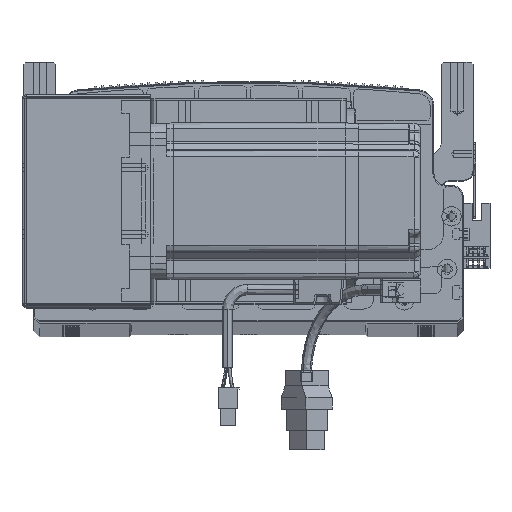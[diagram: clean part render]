
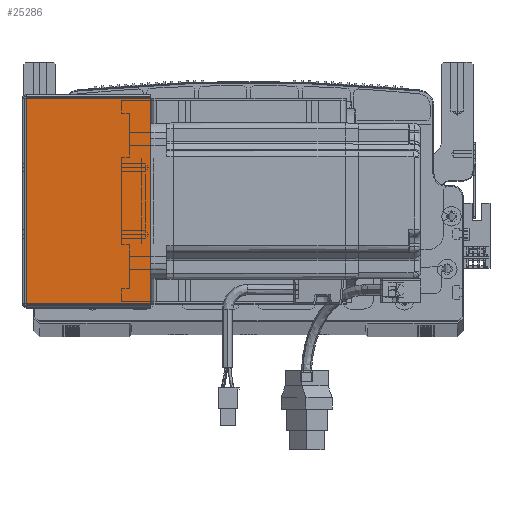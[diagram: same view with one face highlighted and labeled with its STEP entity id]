
A CAD part, top view. The second image highlights one B-rep face of the part: STEP entity #25286.
In plain terms, the highlighted planar face has unit normal (0, 0, 1) as drawn and (0, 0, -1) by its records, which use the part's own axes.
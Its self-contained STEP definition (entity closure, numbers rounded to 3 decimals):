
#592 = DIRECTION ( 'NONE',  ( 0., -1., 0. ) ) ;
#4978 = DIRECTION ( 'NONE',  ( 1., 0., 0. ) ) ;
#6261 = LINE ( 'NONE', #27352, #13866 ) ;
#8353 = EDGE_CURVE ( 'NONE', #13475, #94036, #75417, .T. ) ;
#8995 = PLANE ( 'NONE',  #91967 ) ;
#9349 = CARTESIAN_POINT ( 'NONE',  ( 0., 0., -205.5 ) ) ;
#13475 = VERTEX_POINT ( 'NONE', #42176 ) ;
#13866 = VECTOR ( 'NONE', #95404, 1000. ) ;
#16907 = CARTESIAN_POINT ( 'NONE',  ( 0.737, 0., -205.5 ) ) ;
#19969 = VECTOR ( 'NONE', #74149, 1000. ) ;
#22203 = LINE ( 'NONE', #77772, #101858 ) ;
#24961 = CARTESIAN_POINT ( 'NONE',  ( 64.5, 0., -205.5 ) ) ;
#25286 = ADVANCED_FACE ( 'NONE', ( #34449 ), #8995, .F. ) ;
#27224 = EDGE_CURVE ( 'NONE', #75761, #13475, #6261, .T. ) ;
#27352 = CARTESIAN_POINT ( 'NONE',  ( 0., 105.293, -205.5 ) ) ;
#27486 = CARTESIAN_POINT ( 'NONE',  ( 0.737, 105.293, -205.5 ) ) ;
#31768 = ORIENTED_EDGE ( 'NONE', *, *, #100243, .F. ) ;
#34432 = EDGE_LOOP ( 'NONE', ( #57187, #52659, #93007, #31768 ) ) ;
#34449 = FACE_OUTER_BOUND ( 'NONE', #34432, .T. ) ;
#40014 = VECTOR ( 'NONE', #592, 1000. ) ;
#42176 = CARTESIAN_POINT ( 'NONE',  ( 64.5, 105.293, -205.5 ) ) ;
#42217 = DIRECTION ( 'NONE',  ( 0., 0., 1. ) ) ;
#48354 = CARTESIAN_POINT ( 'NONE',  ( 64.5, 0.707, -205.5 ) ) ;
#52402 = VERTEX_POINT ( 'NONE', #88423 ) ;
#52659 = ORIENTED_EDGE ( 'NONE', *, *, #27224, .T. ) ;
#57187 = ORIENTED_EDGE ( 'NONE', *, *, #67049, .F. ) ;
#67049 = EDGE_CURVE ( 'NONE', #75761, #52402, #79391, .T. ) ;
#74149 = DIRECTION ( 'NONE',  ( 0., -1., 0. ) ) ;
#75417 = LINE ( 'NONE', #24961, #40014 ) ;
#75761 = VERTEX_POINT ( 'NONE', #27486 ) ;
#77772 = CARTESIAN_POINT ( 'NONE',  ( 0., 0.707, -205.5 ) ) ;
#79391 = LINE ( 'NONE', #16907, #19969 ) ;
#82130 = DIRECTION ( 'NONE',  ( 1., 0., 0. ) ) ;
#88423 = CARTESIAN_POINT ( 'NONE',  ( 0.737, 0.707, -205.5 ) ) ;
#91967 = AXIS2_PLACEMENT_3D ( 'NONE', #9349, #42217, #82130 ) ;
#93007 = ORIENTED_EDGE ( 'NONE', *, *, #8353, .T. ) ;
#94036 = VERTEX_POINT ( 'NONE', #48354 ) ;
#95404 = DIRECTION ( 'NONE',  ( 1., 0., 0. ) ) ;
#100243 = EDGE_CURVE ( 'NONE', #52402, #94036, #22203, .T. ) ;
#101858 = VECTOR ( 'NONE', #4978, 1000. ) ;
